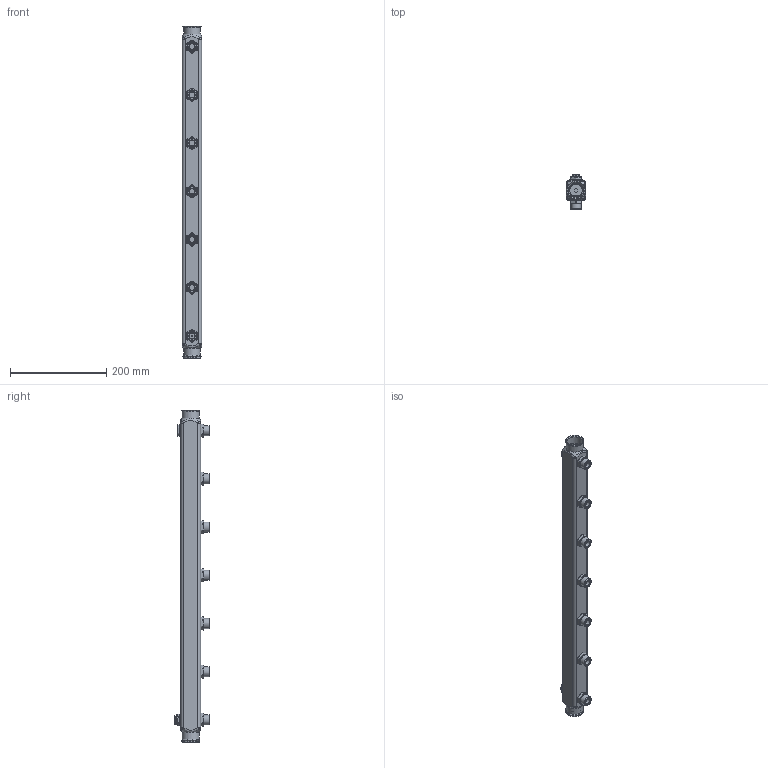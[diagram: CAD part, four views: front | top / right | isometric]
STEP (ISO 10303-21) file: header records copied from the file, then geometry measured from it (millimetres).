
FILE_DESCRIPTION(('STEP AP203'), '1');
FILE_NAME('VTc.510.SQ.060407', '2025-12-12T12:03:09', ('verevichevva'), ('Vesta'), 'C3D Converter', 'C3D Toolkit', '');
FILE_SCHEMA(('CONFIG_CONTROL_DESIGN'));
Length unit declared in the file: millimetre
Products named in the file (1): ВР.622621.197.000 СБ
Bounding box: 40 x 73.6 x 688.5 mm (x, y, z)
Volume: 221062 mm3; surface area: 229520 mm2
Topology: 1 solids, 22 shells, 930 faces, 2374 edges, 1522 vertices
Faces by surface type: plane 347, cone 178, cylinder 170, extrusion 118, bspline 72, torus 45
Full cylindrical faces by diameter (mm): 1.6 x1, 2.3 x1, 3.4 x1, 4.134 x1, 5 x1, 5.3 x1, 6.3 x2, 9.6 x1, 10.2 x1, 12 x7, 13 x1, 14 x1, 15.7 x1, 18 x8, 18.5 x1, 19 x9, 19.5 x1, 20 x1, 20.955 x15, 22 x1, 22.2 x9, 23 x1, 24 x1, 25.5 x1, 26 x1, 28 x1, 30 x2, 31.8 x3, 35 x2, 35.3 x2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
Entity records: 37391 total; most frequent: CARTESIAN_POINT 16761, ORIENTED_EDGE 4354, DIRECTION 3679, EDGE_CURVE 2177, VERTEX_POINT 1516, AXIS2_PLACEMENT_3D 1339, EDGE_LOOP 1207, VECTOR 1001
